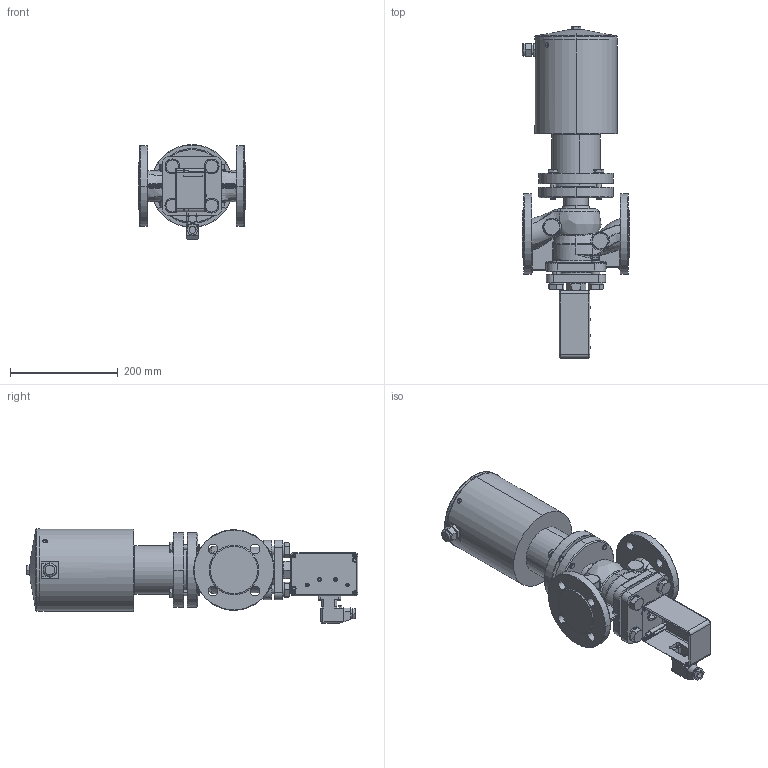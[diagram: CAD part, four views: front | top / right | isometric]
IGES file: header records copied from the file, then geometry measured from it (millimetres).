
Global section: file name: No Iges File Name specified; native system: AutoDesk Inventor R12.0; preprocessor: AutoDesk Inventor Iges Exporter R12.0; date: 20101025.110123; units: millimetre
Bounding box: 200 x 616.8 x 176.18 mm (x, y, z)
Volume: 7016143.8 mm3; surface area: 482031.3 mm2
Topology: 1 solids, 1 shells, 1277 faces, 3258 edges, 1987 vertices
Faces by surface type: plane 478, bspline 241, cylinder 203, cone 156, torus 99, revolution 86, sphere 14
